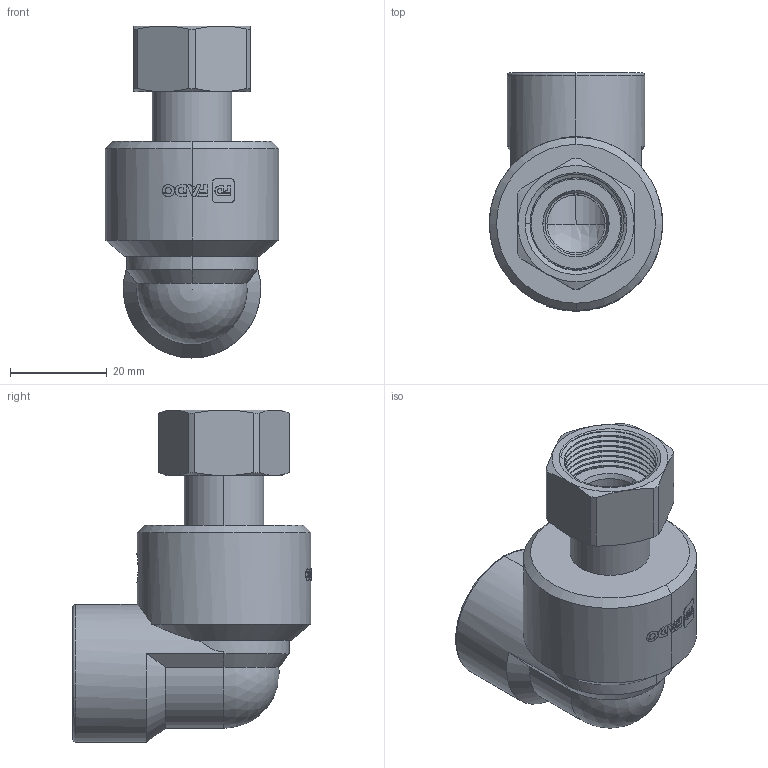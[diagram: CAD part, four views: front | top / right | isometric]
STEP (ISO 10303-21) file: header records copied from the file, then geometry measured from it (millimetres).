
FILE_DESCRIPTION (( 'STEP AP203' ), '1' );
FILE_NAME ('PPG21_ASM.STEP', '2021-10-13T14:09:05', ( '' ), ( '' ), 'SwSTEP 2.0', 'SolidWorks 2017', '' );
FILE_SCHEMA (( 'CONFIG_CONTROL_DESIGN' ));
Length unit declared in the file: millimetre
Products named in the file (4): PPG21_INSERT; PPG21_NUT; PPG21_PLASTIC; PPG21_ASM
Assembly tree (3 placements, depth 2):
  PPG21_ASM
    PPG21_PLASTIC
    PPG21_INSERT
    PPG21_NUT
Bounding box: 35.8 x 49.2 x 68.55 mm (x, y, z)
Volume: 35388.7 mm3; surface area: 16409.9 mm2
Topology: 3 solids, 3 shells, 446 faces, 1159 edges, 759 vertices
Faces by surface type: plane 183, bspline 137, cylinder 93, cone 29, torus 2, sphere 2
Entity records: 23528 total; most frequent: CARTESIAN_POINT 13322, ORIENTED_EDGE 2306, DIRECTION 1545, EDGE_CURVE 1153, VERTEX_POINT 756, VECTOR 543, LINE 543, AXIS2_PLACEMENT_3D 501
